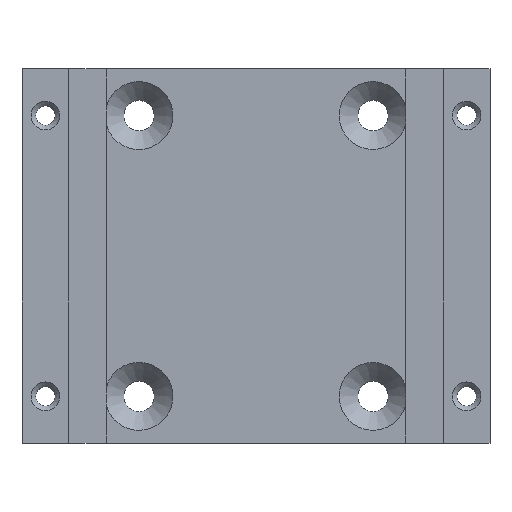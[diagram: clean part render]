
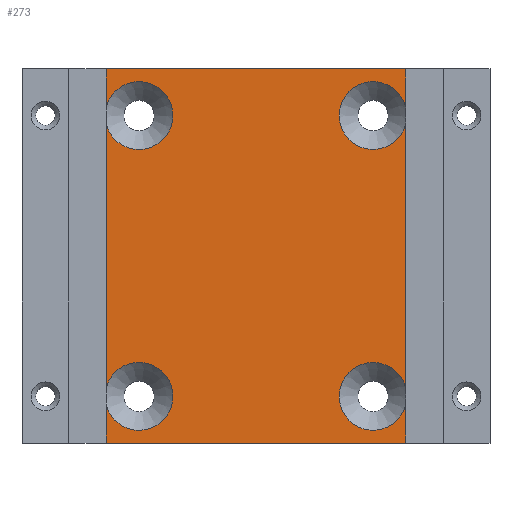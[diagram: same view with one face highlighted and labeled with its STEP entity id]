
A CAD part, top view. The second image highlights one B-rep face of the part: STEP entity #273.
In plain terms, the highlighted planar face has unit normal (0, 0, 1).
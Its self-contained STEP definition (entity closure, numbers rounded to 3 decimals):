
#273=ADVANCED_FACE('',(#619),#621,.T.);
#619=FACE_BOUND('',#620,.T.);
#620=EDGE_LOOP('',(#870,#871,#872,#873,#874,#875,#876,#877,#878,#879,#880,#881,#882,
#883));
#621=PLANE('',#622);
#622=AXIS2_PLACEMENT_3D('',#623,#624,#625);
#623=CARTESIAN_POINT('',(-40.,-40.,8.));
#624=DIRECTION('',(0.,0.,1.));
#625=DIRECTION('',(1.,0.,0.));
#870=ORIENTED_EDGE('',*,*,#1017,.T.);
#871=ORIENTED_EDGE('',*,*,#1016,.T.);
#872=ORIENTED_EDGE('',*,*,#996,.F.);
#873=ORIENTED_EDGE('',*,*,#1018,.T.);
#874=ORIENTED_EDGE('',*,*,#1019,.T.);
#875=ORIENTED_EDGE('',*,*,#1020,.T.);
#876=ORIENTED_EDGE('',*,*,#1021,.T.);
#877=ORIENTED_EDGE('',*,*,#1022,.T.);
#878=ORIENTED_EDGE('',*,*,#1023,.T.);
#879=ORIENTED_EDGE('',*,*,#1024,.T.);
#880=ORIENTED_EDGE('',*,*,#978,.T.);
#881=ORIENTED_EDGE('',*,*,#1015,.T.);
#882=ORIENTED_EDGE('',*,*,#1025,.T.);
#883=ORIENTED_EDGE('',*,*,#1012,.T.);
#978=EDGE_CURVE('',#1105,#1103,#1106,.T.);
#996=EDGE_CURVE('',#1136,#1138,#1139,.T.);
#1012=EDGE_CURVE('',#1167,#1165,#1168,.F.);
#1015=EDGE_CURVE('',#1103,#1171,#1173,.F.);
#1016=EDGE_CURVE('',#1162,#1138,#1174,.F.);
#1017=EDGE_CURVE('',#1165,#1162,#1175,.F.);
#1018=EDGE_CURVE('',#1136,#1176,#1177,.F.);
#1019=EDGE_CURVE('',#1176,#1178,#1179,.F.);
#1020=EDGE_CURVE('',#1178,#1180,#1181,.F.);
#1021=EDGE_CURVE('',#1180,#1182,#1183,.F.);
#1022=EDGE_CURVE('',#1182,#1184,#1185,.F.);
#1023=EDGE_CURVE('',#1184,#1186,#1187,.F.);
#1024=EDGE_CURVE('',#1186,#1105,#1188,.F.);
#1025=EDGE_CURVE('',#1171,#1167,#1189,.F.);
#1103=VERTEX_POINT('',#1353);
#1105=VERTEX_POINT('',#1357);
#1106=LINE('',#1358,#1359);
#1136=VERTEX_POINT('',#1422);
#1138=VERTEX_POINT('',#1426);
#1139=LINE('',#1427,#1428);
#1162=VERTEX_POINT('',#1486);
#1165=VERTEX_POINT('',#1504);
#1167=VERTEX_POINT('',#1520);
#1168=LINE('',#1521,#1522);
#1171=VERTEX_POINT('',#1541);
#1173=LINE('',#1557,#1558);
#1174=LINE('',#1560,#1561);
#1175=CIRCLE('',#1563,7.25);
#1176=VERTEX_POINT('',#1567);
#1177=LINE('',#1568,#1569);
#1178=VERTEX_POINT('',#1571);
#1179=CIRCLE('',#1572,7.25);
#1180=VERTEX_POINT('',#1576);
#1181=CIRCLE('',#1577,7.25);
#1182=VERTEX_POINT('',#1581);
#1183=LINE('',#1582,#1583);
#1184=VERTEX_POINT('',#1585);
#1185=CIRCLE('',#1586,7.25);
#1186=VERTEX_POINT('',#1590);
#1187=CIRCLE('',#1591,7.25);
#1188=LINE('',#1595,#1596);
#1189=CIRCLE('',#1598,7.25);
#1353=CARTESIAN_POINT('',(32.,-40.,8.));
#1357=CARTESIAN_POINT('',(-32.,-40.,8.));
#1358=CARTESIAN_POINT('',(-32.,-40.,8.));
#1359=VECTOR('',#1360,1.);
#1360=DIRECTION('',(1.,0.,0.));
#1422=CARTESIAN_POINT('',(-32.,40.,8.));
#1426=CARTESIAN_POINT('',(32.,40.,8.));
#1427=CARTESIAN_POINT('',(-32.,40.,8.));
#1428=VECTOR('',#1429,1.);
#1429=DIRECTION('',(1.,0.,0.));
#1486=CARTESIAN_POINT('',(32.,31.887,8.));
#1504=CARTESIAN_POINT('',(32.,28.113,8.));
#1520=CARTESIAN_POINT('',(32.,-28.113,8.));
#1521=CARTESIAN_POINT('',(32.,28.113,8.));
#1522=VECTOR('',#1523,1.);
#1523=DIRECTION('',(0.,-1.,0.));
#1541=CARTESIAN_POINT('',(32.,-31.887,8.));
#1557=CARTESIAN_POINT('',(32.,-31.887,8.));
#1558=VECTOR('',#1559,1.);
#1559=DIRECTION('',(0.,-1.,0.));
#1560=CARTESIAN_POINT('',(32.,40.,8.));
#1561=VECTOR('',#1562,1.);
#1562=DIRECTION('',(0.,-1.,0.));
#1563=AXIS2_PLACEMENT_3D('',#1564,#1565,#1566);
#1564=CARTESIAN_POINT('',(25.,30.,8.));
#1565=DIRECTION('',(0.,0.,1.));
#1566=DIRECTION('',(0.966,0.26,0.));
#1567=CARTESIAN_POINT('',(-32.,31.887,8.));
#1568=CARTESIAN_POINT('',(-32.,31.887,8.));
#1569=VECTOR('',#1570,1.);
#1570=DIRECTION('',(0.,1.,0.));
#1571=CARTESIAN_POINT('',(-17.75,30.,8.));
#1572=AXIS2_PLACEMENT_3D('',#1573,#1574,#1575);
#1573=CARTESIAN_POINT('',(-25.,30.,8.));
#1574=DIRECTION('',(0.,0.,1.));
#1575=DIRECTION('',(1.,0.,0.));
#1576=CARTESIAN_POINT('',(-32.,28.113,8.));
#1577=AXIS2_PLACEMENT_3D('',#1578,#1579,#1580);
#1578=CARTESIAN_POINT('',(-25.,30.,8.));
#1579=DIRECTION('',(0.,0.,1.));
#1580=DIRECTION('',(-0.966,-0.26,0.));
#1581=CARTESIAN_POINT('',(-32.,-28.113,8.));
#1582=CARTESIAN_POINT('',(-32.,-28.113,8.));
#1583=VECTOR('',#1584,1.);
#1584=DIRECTION('',(0.,1.,0.));
#1585=CARTESIAN_POINT('',(-17.75,-30.,8.));
#1586=AXIS2_PLACEMENT_3D('',#1587,#1588,#1589);
#1587=CARTESIAN_POINT('',(-25.,-30.,8.));
#1588=DIRECTION('',(0.,0.,1.));
#1589=DIRECTION('',(1.,0.,0.));
#1590=CARTESIAN_POINT('',(-32.,-31.887,8.));
#1591=AXIS2_PLACEMENT_3D('',#1592,#1593,#1594);
#1592=CARTESIAN_POINT('',(-25.,-30.,8.));
#1593=DIRECTION('',(0.,0.,1.));
#1594=DIRECTION('',(-0.966,-0.26,0.));
#1595=CARTESIAN_POINT('',(-32.,-40.,8.));
#1596=VECTOR('',#1597,1.);
#1597=DIRECTION('',(0.,1.,0.));
#1598=AXIS2_PLACEMENT_3D('',#1599,#1600,#1601);
#1599=CARTESIAN_POINT('',(25.,-30.,8.));
#1600=DIRECTION('',(0.,0.,1.));
#1601=DIRECTION('',(0.966,0.26,0.));
